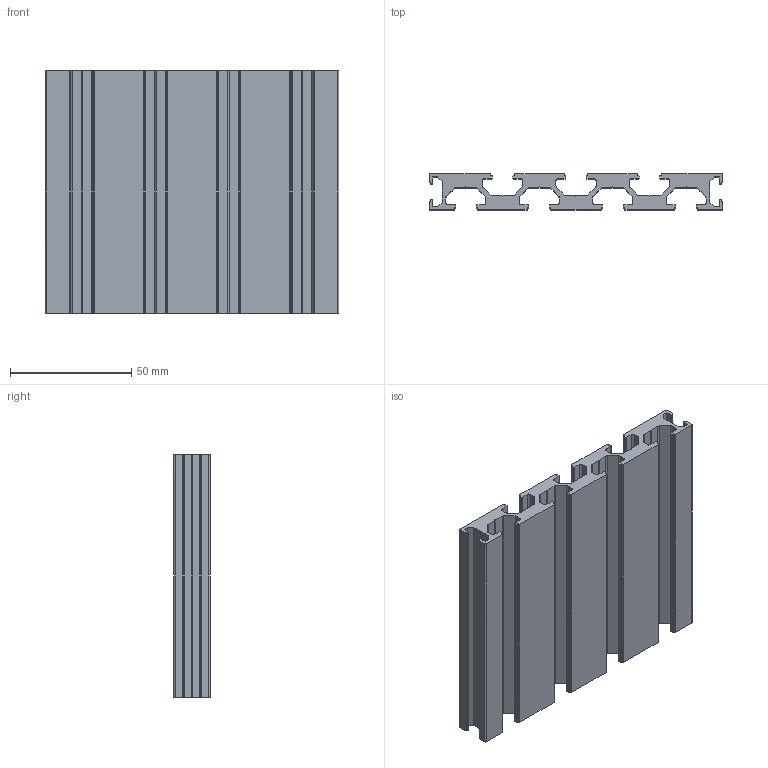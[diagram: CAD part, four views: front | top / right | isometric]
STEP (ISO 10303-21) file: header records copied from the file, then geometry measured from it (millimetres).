
FILE_DESCRIPTION (( 'STEP AP203' ), '1' );
FILE_NAME ('15x120 Sigma Profile.STEP', '2022-01-31T16:44:30', ( '' ), ( '' ), 'SwSTEP 2.0', 'SolidWorks 2018', '' );
FILE_SCHEMA (( 'CONFIG_CONTROL_DESIGN' ));
Length unit declared in the file: millimetre
Products named in the file (1): 15x120 Sigma Profile
Bounding box: 120.95 x 15 x 100 mm (x, y, z)
Volume: 85561 mm3; surface area: 52582.7 mm2
Topology: 1 solids, 1 shells, 277 faces, 825 edges, 550 vertices
Faces by surface type: bspline 277
Entity records: 9402 total; most frequent: CARTESIAN_POINT 4599, ORIENTED_EDGE 1650, EDGE_CURVE 825, B_SPLINE_CURVE_WITH_KNOTS 704, VERTEX_POINT 550, ADVANCED_FACE 277, FACE_OUTER_BOUND 277, EDGE_LOOP 277
